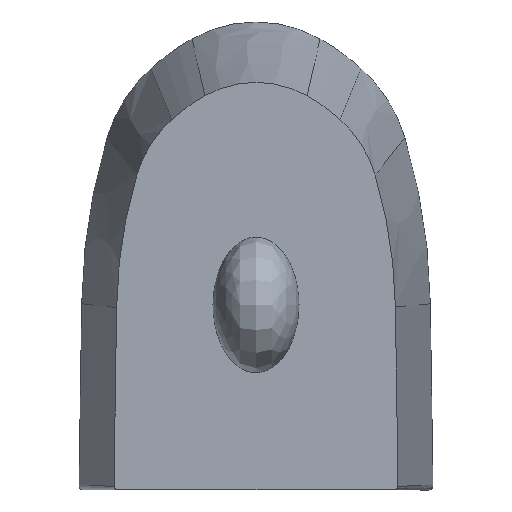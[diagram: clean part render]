
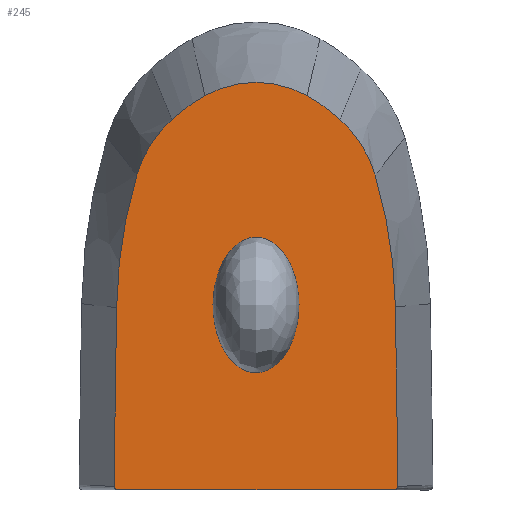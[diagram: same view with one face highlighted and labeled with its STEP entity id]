
A CAD part, front view. The second image highlights one B-rep face of the part: STEP entity #245.
In plain terms, the highlighted planar face has unit normal (0, -1, 0).
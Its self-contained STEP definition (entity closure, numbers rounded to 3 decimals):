
#245 = ADVANCED_FACE('',(#246),#353,.T.);
#246 = FACE_BOUND('',#247,.T.);
#247 = EDGE_LOOP('',(#248,#259,#267,#276,#284,#293,#302,#311,#320,#329,
    #338,#347));
#248 = ORIENTED_EDGE('',*,*,#249,.T.);
#249 = EDGE_CURVE('',#250,#252,#254,.T.);
#250 = VERTEX_POINT('',#251);
#251 = CARTESIAN_POINT('',(-153.085,-290.,4.04));
#252 = VERTEX_POINT('',#253);
#253 = CARTESIAN_POINT('',(-149.087,-290.,-0.016));
#254 = CIRCLE('',#255,3.999);
#255 = AXIS2_PLACEMENT_3D('',#256,#257,#258);
#256 = CARTESIAN_POINT('',(-149.087,-290.,3.982));
#257 = DIRECTION('',(0.,-1.,0.));
#258 = DIRECTION('',(1.,0.,0.));
#259 = ORIENTED_EDGE('',*,*,#260,.T.);
#260 = EDGE_CURVE('',#252,#261,#263,.T.);
#261 = VERTEX_POINT('',#262);
#262 = CARTESIAN_POINT('',(149.087,-290.,-0.016));
#263 = LINE('',#264,#265);
#264 = CARTESIAN_POINT('',(149.087,-290.,-0.016));
#265 = VECTOR('',#266,1.);
#266 = DIRECTION('',(1.,0.,0.));
#267 = ORIENTED_EDGE('',*,*,#268,.T.);
#268 = EDGE_CURVE('',#261,#269,#271,.T.);
#269 = VERTEX_POINT('',#270);
#270 = CARTESIAN_POINT('',(153.085,-290.,4.04));
#271 = CIRCLE('',#272,3.999);
#272 = AXIS2_PLACEMENT_3D('',#273,#274,#275);
#273 = CARTESIAN_POINT('',(149.087,-290.,3.982));
#274 = DIRECTION('',(0.,-1.,0.));
#275 = DIRECTION('',(1.,0.,0.));
#276 = ORIENTED_EDGE('',*,*,#277,.T.);
#277 = EDGE_CURVE('',#269,#278,#280,.T.);
#278 = VERTEX_POINT('',#279);
#279 = CARTESIAN_POINT('',(150.272,-290.,197.385));
#280 = LINE('',#281,#282);
#281 = CARTESIAN_POINT('',(150.272,-290.,197.385));
#282 = VECTOR('',#283,1.);
#283 = DIRECTION('',(-0.015,0.,
    1.));
#284 = ORIENTED_EDGE('',*,*,#285,.T.);
#285 = EDGE_CURVE('',#278,#286,#288,.T.);
#286 = VERTEX_POINT('',#287);
#287 = CARTESIAN_POINT('',(128.428,-290.,339.509));
#288 = CIRCLE('',#289,528.968);
#289 = AXIS2_PLACEMENT_3D('',#290,#291,#292);
#290 = CARTESIAN_POINT('',(-378.628,-290.,188.838));
#291 = DIRECTION('',(0.,-1.,0.));
#292 = DIRECTION('',(1.,0.,0.));
#293 = ORIENTED_EDGE('',*,*,#294,.T.);
#294 = EDGE_CURVE('',#286,#295,#297,.T.);
#295 = VERTEX_POINT('',#296);
#296 = CARTESIAN_POINT('',(90.338,-290.,399.638));
#297 = CIRCLE('',#298,130.677);
#298 = AXIS2_PLACEMENT_3D('',#299,#300,#301);
#299 = CARTESIAN_POINT('',(3.164,-290.,302.287));
#300 = DIRECTION('',(0.,-1.,0.));
#301 = DIRECTION('',(1.,0.,0.));
#302 = ORIENTED_EDGE('',*,*,#303,.T.);
#303 = EDGE_CURVE('',#295,#304,#306,.T.);
#304 = VERTEX_POINT('',#305);
#305 = CARTESIAN_POINT('',(55.128,-290.,424.911));
#306 = CIRCLE('',#307,201.543);
#307 = AXIS2_PLACEMENT_3D('',#308,#309,#310);
#308 = CARTESIAN_POINT('',(-44.11,-290.,249.493));
#309 = DIRECTION('',(0.,-1.,0.));
#310 = DIRECTION('',(1.,0.,0.));
#311 = ORIENTED_EDGE('',*,*,#312,.T.);
#312 = EDGE_CURVE('',#304,#313,#315,.T.);
#313 = VERTEX_POINT('',#314);
#314 = CARTESIAN_POINT('',(-55.127,-290.,424.911));
#315 = CIRCLE('',#316,111.959);
#316 = AXIS2_PLACEMENT_3D('',#317,#318,#319);
#317 = CARTESIAN_POINT('',(0.,-290.,327.465));
#318 = DIRECTION('',(0.,-1.,0.));
#319 = DIRECTION('',(1.,0.,0.));
#320 = ORIENTED_EDGE('',*,*,#321,.T.);
#321 = EDGE_CURVE('',#313,#322,#324,.T.);
#322 = VERTEX_POINT('',#323);
#323 = CARTESIAN_POINT('',(-90.338,-290.,399.638));
#324 = CIRCLE('',#325,201.543);
#325 = AXIS2_PLACEMENT_3D('',#326,#327,#328);
#326 = CARTESIAN_POINT('',(44.111,-290.,249.493));
#327 = DIRECTION('',(0.,-1.,0.));
#328 = DIRECTION('',(1.,0.,0.));
#329 = ORIENTED_EDGE('',*,*,#330,.T.);
#330 = EDGE_CURVE('',#322,#331,#333,.T.);
#331 = VERTEX_POINT('',#332);
#332 = CARTESIAN_POINT('',(-128.428,-290.,339.509));
#333 = CIRCLE('',#334,130.677);
#334 = AXIS2_PLACEMENT_3D('',#335,#336,#337);
#335 = CARTESIAN_POINT('',(-3.164,-290.,302.287));
#336 = DIRECTION('',(0.,-1.,0.));
#337 = DIRECTION('',(1.,0.,0.));
#338 = ORIENTED_EDGE('',*,*,#339,.T.);
#339 = EDGE_CURVE('',#331,#340,#342,.T.);
#340 = VERTEX_POINT('',#341);
#341 = CARTESIAN_POINT('',(-150.284,-290.,196.535));
#342 = CIRCLE('',#343,528.968);
#343 = AXIS2_PLACEMENT_3D('',#344,#345,#346);
#344 = CARTESIAN_POINT('',(378.628,-290.,188.838));
#345 = DIRECTION('',(0.,-1.,0.));
#346 = DIRECTION('',(1.,0.,0.));
#347 = ORIENTED_EDGE('',*,*,#348,.T.);
#348 = EDGE_CURVE('',#340,#250,#349,.T.);
#349 = LINE('',#350,#351);
#350 = CARTESIAN_POINT('',(-153.085,-290.,4.04));
#351 = VECTOR('',#352,1.);
#352 = DIRECTION('',(-0.015,0.,
    -1.));
#353 = PLANE('',#354);
#354 = AXIS2_PLACEMENT_3D('',#355,#356,#357);
#355 = CARTESIAN_POINT('',(-0.001,-290.,227.507));
#356 = DIRECTION('',(0.,-1.,0.));
#357 = DIRECTION('',(-0.015,0.,
    -1.));
